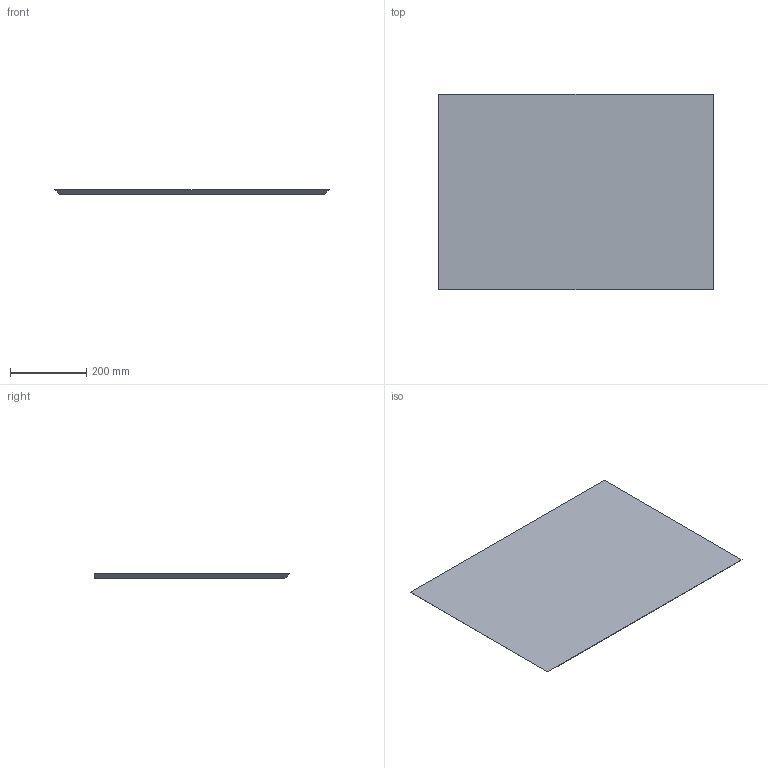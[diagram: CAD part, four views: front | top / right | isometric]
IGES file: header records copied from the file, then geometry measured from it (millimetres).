
Start section: Data from Parasolid IGES Translator 22.0.50, Copyright(c) 2006 Siemens P LM Software. All Rights Reserved.
Global section: file name: noorth-top-H 1,9 _2952.igs; native system: By Siemens PLM Incorporated; preprocessor: XPlus GENERIC/IGES 22.0.50; author: Noname; organization: Noname; date: 20251109.205338; units: metre
Bounding box: 720 x 512 x 12 mm (x, y, z)
Volume: 4299264 mm3; surface area: 754325.4 mm2
Topology: 1 solids, 1 shells, 6 faces, 12 edges, 8 vertices
Faces by surface type: plane 6
